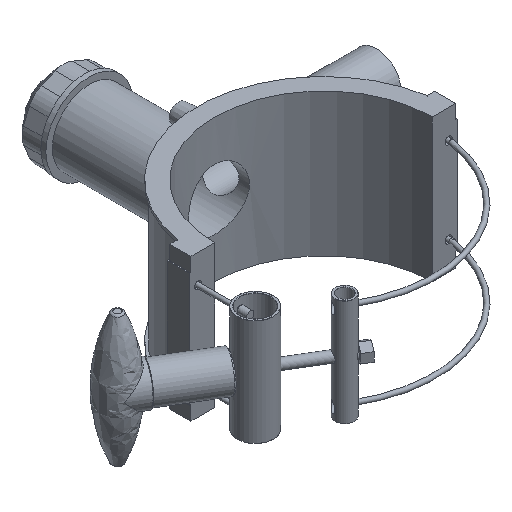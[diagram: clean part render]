
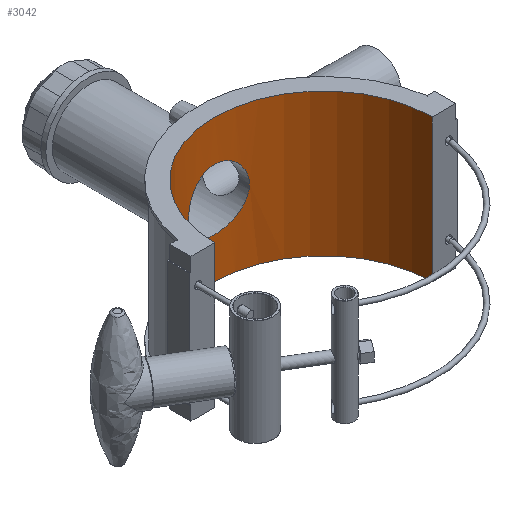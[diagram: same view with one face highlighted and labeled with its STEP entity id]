
A CAD part, isometric view. The second image highlights one B-rep face of the part: STEP entity #3042.
In plain terms, the highlighted cylindrical face has radius 90 mm (diameter 180 mm), a partial arc.
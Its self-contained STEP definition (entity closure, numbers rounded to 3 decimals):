
#60=B_SPLINE_CURVE_WITH_KNOTS('',3,(#4452,#4453,#4454,#4455,#4456,#4457,
#4458,#4459,#4460,#4461,#4462,#4463,#4464,#4465,#4466,#4467,#4468,#4469,
#4470,#4471,#4472,#4473,#4474,#4475,#4476,#4477,#4478,#4479,#4480,#4481,
#4482,#4483,#4484,#4485,#4486,#4487,#4488,#4489,#4490,#4491,#4492,#4493,
#4494,#4495,#4496,#4497,#4498,#4499,#4500,#4501),.UNSPECIFIED.,.F.,.F.,
(4,2,2,2,2,2,2,2,2,2,2,2,2,2,2,2,2,2,2,2,2,2,2,2,4),(0.,0.477,
0.955,1.432,1.91,2.387,2.864,
3.342,3.819,4.296,4.774,5.251,
5.728,6.206,6.683,7.161,7.638,
8.116,8.593,9.071,9.548,10.025,
10.503,10.98,11.457),.UNSPECIFIED.);
#61=B_SPLINE_CURVE_WITH_KNOTS('',3,(#4502,#4503,#4504,#4505,#4506,#4507,
#4508,#4509,#4510,#4511,#4512,#4513,#4514,#4515,#4516,#4517,#4518,#4519),
 .UNSPECIFIED.,.F.,.F.,(4,2,2,2,2,2,2,2,4),(11.457,11.935,
12.412,12.889,13.367,13.844,14.322,
14.799,15.276),.UNSPECIFIED.);
#172=FACE_BOUND('',#589,.T.);
#392=FACE_OUTER_BOUND('',#588,.T.);
#588=EDGE_LOOP('',(#2527,#2528,#2529,#2530));
#589=EDGE_LOOP('',(#2531,#2532));
#778=CIRCLE('',#3330,90.);
#779=CIRCLE('',#3332,90.);
#979=LINE('',#5695,#1178);
#984=LINE('',#5704,#1183);
#1178=VECTOR('',#3982,10.);
#1183=VECTOR('',#3989,10.);
#1275=VERTEX_POINT('',#4449);
#1276=VERTEX_POINT('',#4451);
#1417=VERTEX_POINT('',#5692);
#1418=VERTEX_POINT('',#5694);
#1420=VERTEX_POINT('',#5700);
#1421=VERTEX_POINT('',#5702);
#1589=EDGE_CURVE('',#1276,#1275,#60,.T.);
#1590=EDGE_CURVE('',#1275,#1276,#61,.T.);
#1806=EDGE_CURVE('',#1418,#1417,#979,.T.);
#1811=EDGE_CURVE('',#1420,#1421,#984,.T.);
#1813=EDGE_CURVE('',#1420,#1417,#778,.T.);
#1814=EDGE_CURVE('',#1418,#1421,#779,.T.);
#2527=ORIENTED_EDGE('',*,*,#1811,.T.);
#2528=ORIENTED_EDGE('',*,*,#1814,.F.);
#2529=ORIENTED_EDGE('',*,*,#1806,.T.);
#2530=ORIENTED_EDGE('',*,*,#1813,.F.);
#2531=ORIENTED_EDGE('',*,*,#1589,.T.);
#2532=ORIENTED_EDGE('',*,*,#1590,.T.);
#2912=CYLINDRICAL_SURFACE('',#3331,90.);
#3042=ADVANCED_FACE('',(#392,#172),#2912,.F.);
#3330=AXIS2_PLACEMENT_3D('',#5708,#3995,#3996);
#3331=AXIS2_PLACEMENT_3D('',#5709,#3997,#3998);
#3332=AXIS2_PLACEMENT_3D('',#5710,#3999,#4000);
#3982=DIRECTION('',(0.,0.,1.));
#3989=DIRECTION('',(0.,0.,-1.));
#3995=DIRECTION('center_axis',(0.,0.,-1.));
#3996=DIRECTION('ref_axis',(1.,0.,0.));
#3997=DIRECTION('center_axis',(0.,0.,1.));
#3998=DIRECTION('ref_axis',(1.,0.,0.));
#3999=DIRECTION('center_axis',(0.,0.,1.));
#4000=DIRECTION('ref_axis',(1.,0.,0.));
#4449=CARTESIAN_POINT('',(0.,90.,-25.2));
#4451=CARTESIAN_POINT('',(-25.2,86.4,0.));
#4452=CARTESIAN_POINT('Ctrl Pts',(-25.2,86.4,0.));
#4453=CARTESIAN_POINT('Ctrl Pts',(-25.2,86.4,1.591));
#4454=CARTESIAN_POINT('Ctrl Pts',(-25.047,86.445,3.234));
#4455=CARTESIAN_POINT('Ctrl Pts',(-24.405,86.629,6.497));
#4456=CARTESIAN_POINT('Ctrl Pts',(-23.916,86.767,8.116));
#4457=CARTESIAN_POINT('Ctrl Pts',(-22.628,87.112,11.218));
#4458=CARTESIAN_POINT('Ctrl Pts',(-21.827,87.318,12.703));
#4459=CARTESIAN_POINT('Ctrl Pts',(-19.98,87.759,15.446));
#4460=CARTESIAN_POINT('Ctrl Pts',(-18.933,87.993,16.705));
#4461=CARTESIAN_POINT('Ctrl Pts',(-16.705,88.443,18.933));
#4462=CARTESIAN_POINT('Ctrl Pts',(-15.447,88.675,19.979));
#4463=CARTESIAN_POINT('Ctrl Pts',(-12.703,89.11,21.827));
#4464=CARTESIAN_POINT('Ctrl Pts',(-11.218,89.312,22.628));
#4465=CARTESIAN_POINT('Ctrl Pts',(-8.116,89.647,23.916));
#4466=CARTESIAN_POINT('Ctrl Pts',(-6.496,89.78,24.405));
#4467=CARTESIAN_POINT('Ctrl Pts',(-3.234,89.957,25.047));
#4468=CARTESIAN_POINT('Ctrl Pts',(-1.591,90.,25.2));
#4469=CARTESIAN_POINT('Ctrl Pts',(1.591,90.,25.2));
#4470=CARTESIAN_POINT('Ctrl Pts',(3.234,89.957,25.047));
#4471=CARTESIAN_POINT('Ctrl Pts',(6.496,89.78,24.405));
#4472=CARTESIAN_POINT('Ctrl Pts',(8.116,89.647,23.916));
#4473=CARTESIAN_POINT('Ctrl Pts',(11.218,89.312,22.628));
#4474=CARTESIAN_POINT('Ctrl Pts',(12.703,89.11,21.827));
#4475=CARTESIAN_POINT('Ctrl Pts',(15.447,88.675,19.979));
#4476=CARTESIAN_POINT('Ctrl Pts',(16.705,88.443,18.933));
#4477=CARTESIAN_POINT('Ctrl Pts',(18.933,87.993,16.705));
#4478=CARTESIAN_POINT('Ctrl Pts',(19.98,87.759,15.446));
#4479=CARTESIAN_POINT('Ctrl Pts',(21.827,87.318,12.703));
#4480=CARTESIAN_POINT('Ctrl Pts',(22.628,87.112,11.218));
#4481=CARTESIAN_POINT('Ctrl Pts',(23.916,86.767,8.116));
#4482=CARTESIAN_POINT('Ctrl Pts',(24.405,86.629,6.497));
#4483=CARTESIAN_POINT('Ctrl Pts',(25.047,86.445,3.234));
#4484=CARTESIAN_POINT('Ctrl Pts',(25.2,86.4,1.591));
#4485=CARTESIAN_POINT('Ctrl Pts',(25.2,86.4,-1.591));
#4486=CARTESIAN_POINT('Ctrl Pts',(25.047,86.445,-3.234));
#4487=CARTESIAN_POINT('Ctrl Pts',(24.405,86.629,-6.497));
#4488=CARTESIAN_POINT('Ctrl Pts',(23.916,86.767,-8.116));
#4489=CARTESIAN_POINT('Ctrl Pts',(22.628,87.112,-11.218));
#4490=CARTESIAN_POINT('Ctrl Pts',(21.827,87.318,-12.703));
#4491=CARTESIAN_POINT('Ctrl Pts',(19.98,87.759,-15.446));
#4492=CARTESIAN_POINT('Ctrl Pts',(18.933,87.993,-16.705));
#4493=CARTESIAN_POINT('Ctrl Pts',(16.705,88.443,-18.933));
#4494=CARTESIAN_POINT('Ctrl Pts',(15.447,88.675,-19.979));
#4495=CARTESIAN_POINT('Ctrl Pts',(12.703,89.11,-21.827));
#4496=CARTESIAN_POINT('Ctrl Pts',(11.218,89.312,-22.628));
#4497=CARTESIAN_POINT('Ctrl Pts',(8.116,89.647,-23.916));
#4498=CARTESIAN_POINT('Ctrl Pts',(6.496,89.78,-24.405));
#4499=CARTESIAN_POINT('Ctrl Pts',(3.234,89.957,-25.047));
#4500=CARTESIAN_POINT('Ctrl Pts',(1.591,90.,-25.2));
#4501=CARTESIAN_POINT('Ctrl Pts',(0.,90.,-25.2));
#4502=CARTESIAN_POINT('Ctrl Pts',(0.,90.,-25.2));
#4503=CARTESIAN_POINT('Ctrl Pts',(-1.591,90.,-25.2));
#4504=CARTESIAN_POINT('Ctrl Pts',(-3.234,89.957,-25.047));
#4505=CARTESIAN_POINT('Ctrl Pts',(-6.496,89.78,-24.405));
#4506=CARTESIAN_POINT('Ctrl Pts',(-8.116,89.647,-23.916));
#4507=CARTESIAN_POINT('Ctrl Pts',(-11.218,89.312,-22.628));
#4508=CARTESIAN_POINT('Ctrl Pts',(-12.703,89.11,-21.827));
#4509=CARTESIAN_POINT('Ctrl Pts',(-15.447,88.675,-19.979));
#4510=CARTESIAN_POINT('Ctrl Pts',(-16.705,88.443,-18.933));
#4511=CARTESIAN_POINT('Ctrl Pts',(-18.933,87.993,-16.705));
#4512=CARTESIAN_POINT('Ctrl Pts',(-19.98,87.759,-15.446));
#4513=CARTESIAN_POINT('Ctrl Pts',(-21.827,87.318,-12.703));
#4514=CARTESIAN_POINT('Ctrl Pts',(-22.628,87.112,-11.218));
#4515=CARTESIAN_POINT('Ctrl Pts',(-23.916,86.767,-8.116));
#4516=CARTESIAN_POINT('Ctrl Pts',(-24.405,86.629,-6.497));
#4517=CARTESIAN_POINT('Ctrl Pts',(-25.047,86.445,-3.234));
#4518=CARTESIAN_POINT('Ctrl Pts',(-25.2,86.4,-1.591));
#4519=CARTESIAN_POINT('Ctrl Pts',(-25.2,86.4,0.));
#5692=CARTESIAN_POINT('',(90.,0.05,59.));
#5694=CARTESIAN_POINT('',(90.,0.05,-59.));
#5695=CARTESIAN_POINT('',(90.,0.05,0.));
#5700=CARTESIAN_POINT('',(-90.,0.05,59.));
#5702=CARTESIAN_POINT('',(-90.,0.05,-59.));
#5704=CARTESIAN_POINT('',(-90.,0.05,0.));
#5708=CARTESIAN_POINT('Origin',(0.,0.,59.));
#5709=CARTESIAN_POINT('Origin',(0.,0.,0.));
#5710=CARTESIAN_POINT('Origin',(0.,0.,-59.));
